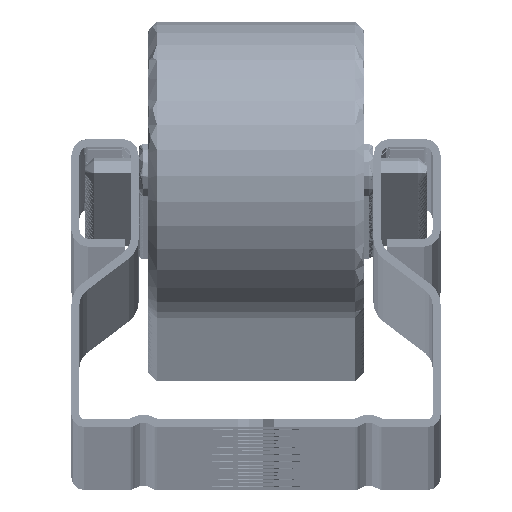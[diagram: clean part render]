
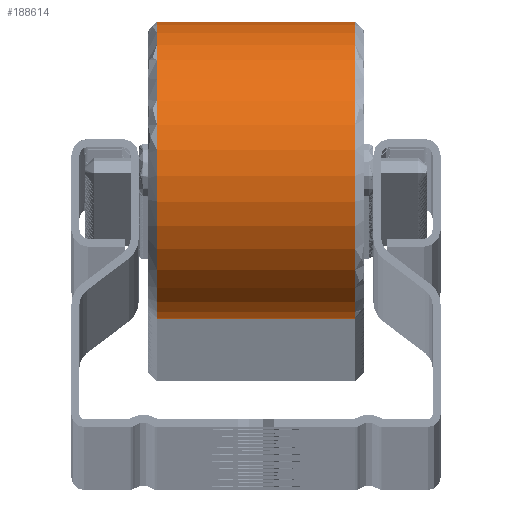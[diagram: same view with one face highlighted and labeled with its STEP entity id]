
A CAD part, top view. The second image highlights one B-rep face of the part: STEP entity #188614.
In plain terms, the highlighted cylindrical face has radius 16.5 mm (diameter 33 mm), a full revolution.
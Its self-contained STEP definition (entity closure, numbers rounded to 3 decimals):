
#13549 = FACE_OUTER_BOUND ( 'NONE', #354136, .T. ) ;
#29302 = EDGE_CURVE ( 'NONE', #314456, #314456, #344939, .T. ) ;
#48504 = CARTESIAN_POINT ( 'NONE',  ( -13.421, 15.578, 4061.5 ) ) ;
#53628 = AXIS2_PLACEMENT_3D ( 'NONE', #242028, #248857, #299442 ) ;
#76355 = DIRECTION ( 'NONE',  ( 0., -0.21, 0.978 ) ) ;
#99383 = EDGE_CURVE ( 'NONE', #253534, #253534, #219601, .T. ) ;
#126727 = FACE_OUTER_BOUND ( 'NONE', #241182, .T. ) ;
#128550 = CYLINDRICAL_SURFACE ( 'NONE', #306269, 16.5 ) ;
#183994 = DIRECTION ( 'NONE',  ( -1., 0., 0. ) ) ;
#188614 = ADVANCED_FACE ( 'NONE', ( #13549, #126727 ), #128550, .T. ) ;
#200156 = ORIENTED_EDGE ( 'NONE', *, *, #99383, .T. ) ;
#219601 = CIRCLE ( 'NONE', #53628, 16.5 ) ;
#222446 = ORIENTED_EDGE ( 'NONE', *, *, #29302, .T. ) ;
#241182 = EDGE_LOOP ( 'NONE', ( #200156 ) ) ;
#242028 = CARTESIAN_POINT ( 'NONE',  ( -12.421, 15.578, 4061.5 ) ) ;
#248857 = DIRECTION ( 'NONE',  ( 1., 0., 0. ) ) ;
#253534 = VERTEX_POINT ( 'NONE', #303580 ) ;
#299442 = DIRECTION ( 'NONE',  ( 0., -0.21, 0.978 ) ) ;
#303580 = CARTESIAN_POINT ( 'NONE',  ( -12.421, 12.117, 4077.633 ) ) ;
#306269 = AXIS2_PLACEMENT_3D ( 'NONE', #48504, #330618, #76355 ) ;
#314456 = VERTEX_POINT ( 'NONE', #342322 ) ;
#327110 = AXIS2_PLACEMENT_3D ( 'NONE', #356555, #183994, #330500 ) ;
#330500 = DIRECTION ( 'NONE',  ( 0., -0.21, 0.978 ) ) ;
#330618 = DIRECTION ( 'NONE',  ( 1., 0., 0. ) ) ;
#342322 = CARTESIAN_POINT ( 'NONE',  ( 9.579, 12.117, 4077.633 ) ) ;
#344939 = CIRCLE ( 'NONE', #327110, 16.5 ) ;
#354136 = EDGE_LOOP ( 'NONE', ( #222446 ) ) ;
#356555 = CARTESIAN_POINT ( 'NONE',  ( 9.579, 15.578, 4061.5 ) ) ;
